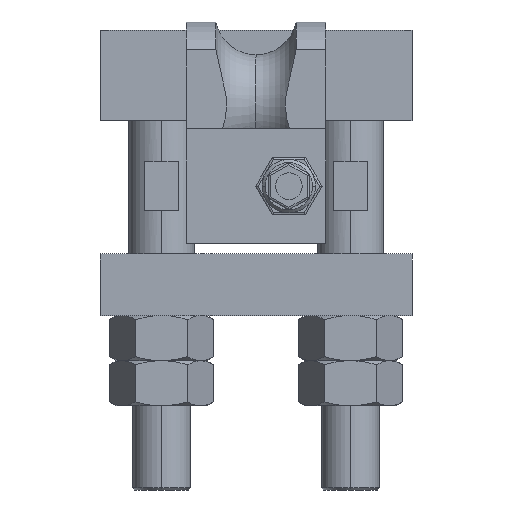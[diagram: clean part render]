
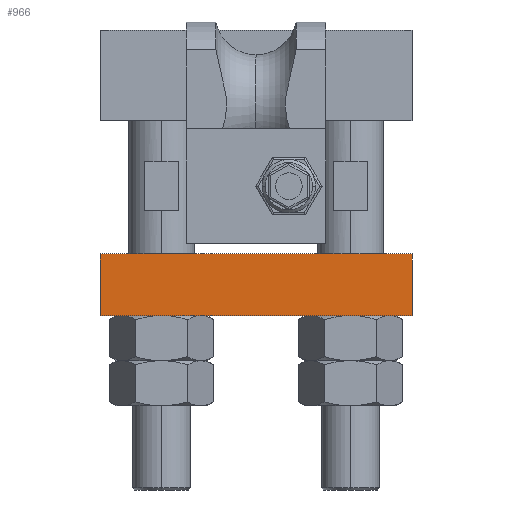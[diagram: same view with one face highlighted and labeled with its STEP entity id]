
A CAD part, left-side view. The second image highlights one B-rep face of the part: STEP entity #966.
In plain terms, the highlighted planar face has unit normal (-1, 0, 0).
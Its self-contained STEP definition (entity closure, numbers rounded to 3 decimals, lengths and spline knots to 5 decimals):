
#966=ADVANCED_FACE('0:1229',(#1845),#1846,.T.);
#1845=FACE_OUTER_BOUND('',#3335,.T.);
#1846=PLANE('',#3336);
#3335=EDGE_LOOP('',(#5130,#5131,#5132,#5133));
#3336=AXIS2_PLACEMENT_3D('',#5134,#5135,#5136);
#5130=ORIENTED_EDGE('',*,*,#6468,.F.);
#5131=ORIENTED_EDGE('',*,*,#6456,.F.);
#5132=ORIENTED_EDGE('',*,*,#6465,.F.);
#5133=ORIENTED_EDGE('',*,*,#6461,.F.);
#5134=CARTESIAN_POINT('',(-0.094,-0.018,-0.26173));
#5135=DIRECTION('',(-1.0,0.0,0.));
#5136=DIRECTION('',(0.,0.0,1.0));
#6456=EDGE_CURVE('0:1262',#7578,#7580,#7581,.T.);
#6461=EDGE_CURVE('0:1274',#7587,#7589,#7590,.T.);
#6465=EDGE_CURVE('0:1283',#7589,#7578,#7594,.T.);
#6468=EDGE_CURVE('0:1289',#7580,#7587,#7597,.T.);
#7578=VERTEX_POINT('',#9688);
#7580=VERTEX_POINT('',#9691);
#7581=LINE('',#9692,#9693);
#7587=VERTEX_POINT('',#9701);
#7589=VERTEX_POINT('',#9704);
#7590=LINE('',#9705,#9706);
#7594=LINE('',#9712,#9713);
#7597=LINE('',#9717,#9718);
#9688=CARTESIAN_POINT('',(-0.094,0.03,-0.04173));
#9691=CARTESIAN_POINT('',(-0.094,-0.046,-0.04173));
#9692=CARTESIAN_POINT('',(-0.094,0.03,-0.04173));
#9693=VECTOR('',#11089,1.0);
#9701=CARTESIAN_POINT('',(-0.094,-0.046,-0.05673));
#9704=CARTESIAN_POINT('',(-0.094,0.03,-0.05673));
#9705=CARTESIAN_POINT('',(-0.094,-0.046,-0.05673));
#9706=VECTOR('',#11093,1.0);
#9712=CARTESIAN_POINT('',(-0.094,0.03,-0.05673));
#9713=VECTOR('',#11096,1.0);
#9717=CARTESIAN_POINT('',(-0.094,-0.046,-0.04173));
#9718=VECTOR('',#11098,1.0);
#11089=DIRECTION('',(0.0,-1.0,0.0));
#11093=DIRECTION('',(0.0,1.0,0.0));
#11096=DIRECTION('',(0.,0.0,1.0));
#11098=DIRECTION('',(0.,0.0,-1.0));
